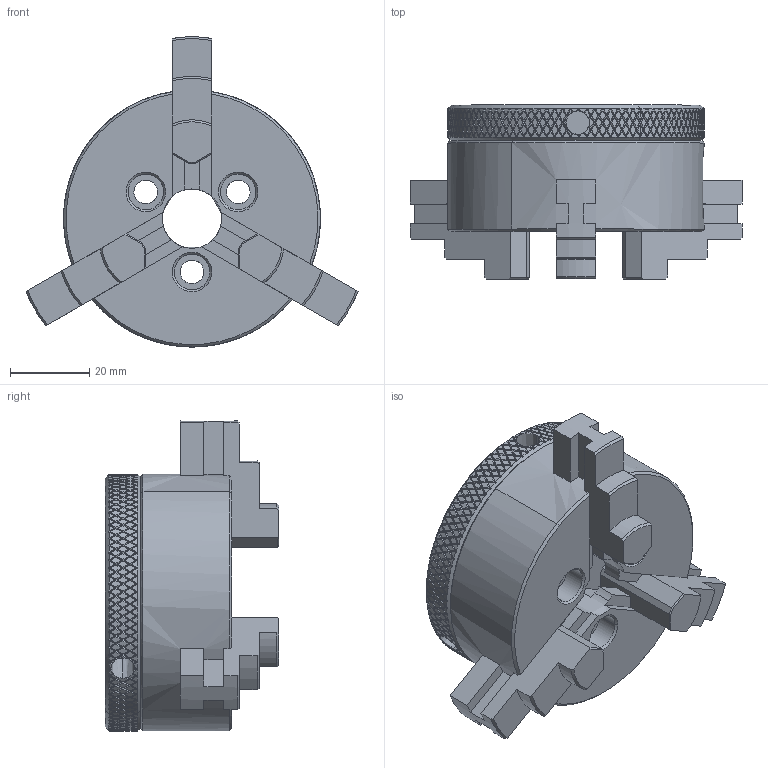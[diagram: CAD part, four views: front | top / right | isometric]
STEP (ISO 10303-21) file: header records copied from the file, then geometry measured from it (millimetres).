
FILE_DESCRIPTION(/* description */ (''),/* implementation_level */ '2;1');
FILE_NAME(/* name */ '65mm',/* time_stamp */ '2013-12-12T20:59:39+01:00',/* author */ (''),/* organization */ (''),/* preprocessor_version */ 'ST-DEVELOPER v14',/* originating_system */ '',/* authorisation */ '');
FILE_SCHEMA (('CONFIG_CONTROL_DESIGN'));
Products named in the file (1): Document
Bounding box: 84.01 x 44 x 78.46 mm (x, y, z)
Volume: 97786.6 mm3; surface area: 31582.4 mm2
Topology: 53 solids, 53 shells, 3634 faces, 8160 edges, 4634 vertices
Faces by surface type: plane 2544, bspline 1090
Entity records: 115263 total; most frequent: CARTESIAN_POINT 58707, ORIENTED_EDGE 16320, EDGE_CURVE 8160, B_SPLINE_CURVE_WITH_KNOTS 8072, VERTEX_POINT 4634, EDGE_LOOP 3688, ADVANCED_FACE 3634, FACE_OUTER_BOUND 3634
